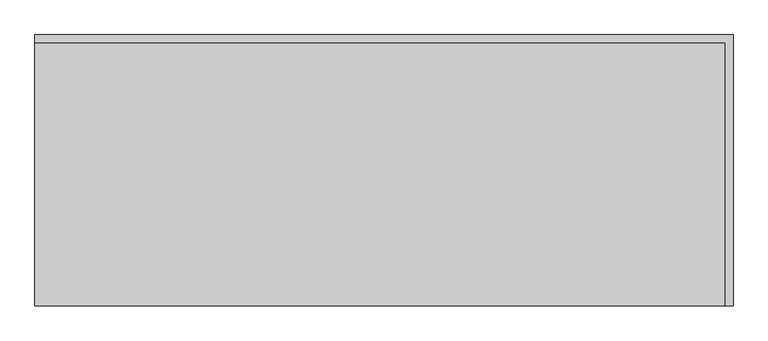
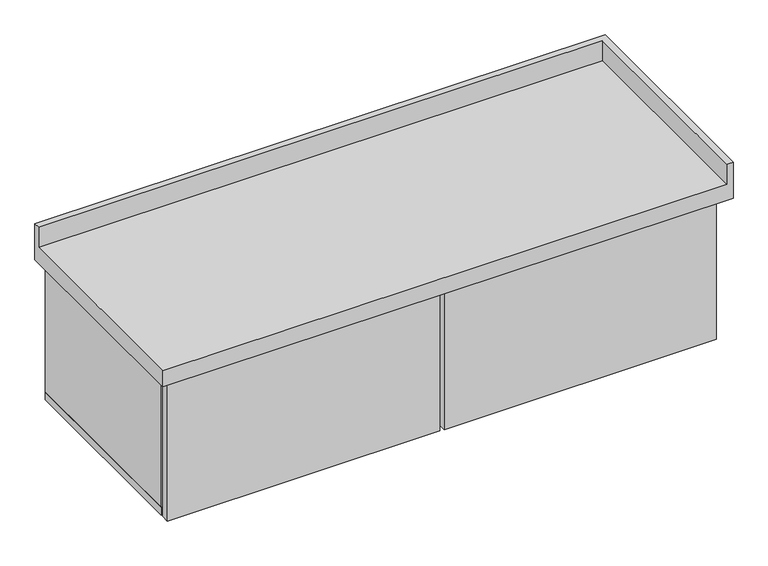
"""IFC4 building model written with IfcOpenShell, lengths in millimetres: furniture geometry, Mueble colgado 2 cajones al lado - lavabo sobreponer : MB8  mueble baño colgado-2 cajones al lado 151."""

import ifcopenshell
import ifcopenshell.guid

model = None  # the IFC model being written
_history = None  # IfcOwnerHistory: only IFC2X3 demands one
_inside = {}  # id of a spatial element -> (the spatial element, [elements in it])
_under = {}  # id of a project, library or spatial element -> (it, [spatial elements below it])
_declared = {}  # id of a project -> (the project, [libraries it declares])
_typed = {}  # id of a type object -> (the type object, [elements of that type])
_made_of = {}  # id of a material, layer set ... -> (it, [elements and type objects made of it])


def new_model(schema):
    """Start an empty IFC model of exactly this schema.

    Asked for "IFC4X3", IfcOpenShell would pick the latest addendum, in which some entities
    have other attributes; the version numbers below select the first issue.
    IFC2X3 requires an IfcOwnerHistory on every rooted entity: one is made here for all.
    """
    global model, _history
    if schema == "IFC4X3":
        model = ifcopenshell.file(schema_version=(4, 3, 0, 0))
    else:
        model = ifcopenshell.file(schema=schema)
    _inside.clear()
    _under.clear()
    _declared.clear()
    _typed.clear()
    _made_of.clear()
    _history = None
    if model.schema == "IFC2X3":
        org = make("IfcOrganization", Name="unknown")
        user = make(
            "IfcPersonAndOrganization",
            ThePerson=make("IfcPerson", FamilyName="unknown"),
            TheOrganization=org,
        )
        app = make(
            "IfcApplication",
            ApplicationDeveloper=org,
            Version="unknown",
            ApplicationFullName="unknown",
            ApplicationIdentifier="unknown",
        )
        _history = make(
            "IfcOwnerHistory",
            OwningUser=user,
            OwningApplication=app,
            ChangeAction="ADDED",
            CreationDate=0,
        )
    return model


def make(cls, **values):
    """One entity of the class cls with the attributes given. An attribute that is None is left unset."""
    return model.create_entity(
        cls, **{name: value for name, value in values.items() if value is not None}
    )


def rooted(cls, **values):
    """An entity with a GlobalId (a new one), such as an element, a storey or a relation."""
    return make(cls, GlobalId=ifcopenshell.guid.new(), OwnerHistory=_history, **values)


def si_unit(unit_type, name, prefix=None):
    """IfcSIUnit, for example si_unit("LENGTHUNIT", "METRE", prefix="MILLI")."""
    return make("IfcSIUnit", UnitType=unit_type, Prefix=prefix, Name=name)


def assignment(units):
    """IfcUnitAssignment: the units of a project."""
    return None if units is None else make("IfcUnitAssignment", Units=units)


def point(xyz):
    """IfcCartesianPoint."""
    return None if xyz is None else make("IfcCartesianPoint", Coordinates=xyz)


def direction(xyz):
    """IfcDirection."""
    return None if xyz is None else make("IfcDirection", DirectionRatios=xyz)


def frame(location, z_axis=None, x_axis=None):
    """IfcAxis2Placement3D, a coordinate frame: its origin and axes. An axis left out is left unset."""
    return make(
        "IfcAxis2Placement3D",
        Location=point(location),
        Axis=direction(z_axis),
        RefDirection=direction(x_axis),
    )


def origin():
    """The frame at (0, 0, 0) with its axes left unset."""
    return frame((0.0, 0.0, 0.0))


def place(relative_to, where):
    """IfcLocalPlacement: puts the frame where relative to a parent placement (None: the world)."""
    return make(
        "IfcLocalPlacement", PlacementRelTo=relative_to, RelativePlacement=where
    )


def context(
    kind, dimensions, precision=None, world=None, true_north=None, identifier=None
):
    """IfcGeometricRepresentationContext, for example the 3D "Model" context."""
    return make(
        "IfcGeometricRepresentationContext",
        ContextIdentifier=identifier,
        ContextType=kind,
        CoordinateSpaceDimension=dimensions,
        Precision=precision,
        WorldCoordinateSystem=world,
        TrueNorth=true_north,
    )


def project(units=None, contexts=None):
    """IfcProject with its units and contexts."""
    return rooted(
        "IfcProject",
        Name="project",
        RepresentationContexts=contexts,
        UnitsInContext=assignment(units),
    )


def spatial(cls, under=None, at=None, **own):
    """A site, building, storey or space (cls), placed at a placement, below another one or the project."""
    s = rooted(cls, ObjectPlacement=at, **own)
    if under is not None:
        _under.setdefault(under.id(), (under, []))[1].append(s)
    return s


def polyline(points):
    """IfcPolyline through the points."""
    return make("IfcPolyline", Points=[point(p) for p in points])


def outline(outer, holes=None, kind="AREA"):
    """IfcArbitraryClosedProfileDef: a profile drawn as a closed curve; with holes, ...WithVoids."""
    if holes is None:
        return make("IfcArbitraryClosedProfileDef", ProfileType=kind, OuterCurve=outer)
    return make(
        "IfcArbitraryProfileDefWithVoids",
        ProfileType=kind,
        OuterCurve=outer,
        InnerCurves=holes,
    )


def extrude(swept, where, along, depth):
    """IfcExtrudedAreaSolid: the profile swept, set in the frame where, extruded along a direction by depth."""
    return make(
        "IfcExtrudedAreaSolid",
        SweptArea=swept,
        Position=where,
        ExtrudedDirection=direction(along),
        Depth=depth,
    )


def faces_of(points, faces, orient=None, outer=None):
    """IfcFace entities. A face is a list of loops; a loop is a list of indices into points, from 0.

    orient and outer hold one flag for each loop. By default every Orientation is true, the
    first loop of a face is its IfcFaceOuterBound and the others are IfcFaceBound.
    """
    made = []
    for i, loops in enumerate(faces):
        bounds = []
        for j, loop in enumerate(loops):
            is_outer = j == 0 if outer is None else outer[i][j]
            bounds.append(
                make(
                    "IfcFaceOuterBound" if is_outer else "IfcFaceBound",
                    Bound=make("IfcPolyLoop", Polygon=[points[k] for k in loop]),
                    Orientation=True if orient is None else orient[i][j],
                )
            )
        made.append(make("IfcFace", Bounds=bounds))
    return made


def faceted_brep(points, faces, orient=None, outer=None, voids=None):
    """IfcFacetedBrep: a solid bounded by flat faces; with voids (closed shells), ...WithVoids."""
    shared = [point(p) for p in points]
    hull = make("IfcClosedShell", CfsFaces=faces_of(shared, faces, orient, outer))
    if voids is None:
        return make("IfcFacetedBrep", Outer=hull)
    return make(
        "IfcFacetedBrepWithVoids",
        Outer=hull,
        Voids=[
            make(cls, CfsFaces=faces_of(shared, fs, o, b)) for cls, fs, o, b in voids
        ],
    )


def shape(context_of_items, identifier, shape_type, items):
    """IfcShapeRepresentation: the items that make up one representation, for example the "Body"."""
    return make(
        "IfcShapeRepresentation",
        ContextOfItems=context_of_items,
        RepresentationIdentifier=identifier,
        RepresentationType=shape_type,
        Items=items,
    )


def source(mapping_origin, context_of_items, identifier, shape_type, items):
    """IfcRepresentationMap: a shape defined once, which mapped items show again and again."""
    return make(
        "IfcRepresentationMap",
        MappingOrigin=mapping_origin,
        MappedRepresentation=shape(context_of_items, identifier, shape_type, items),
    )


def transform(
    local_origin,
    x_axis=None,
    y_axis=None,
    z_axis=None,
    scale=None,
    scale2=None,
    scale3=None,
    uniform=True,
):
    """IfcCartesianTransformationOperator3D, or its non-uniform kind. x_axis, y_axis, z_axis: its Axis1, 2, 3."""
    if uniform:
        return make(
            "IfcCartesianTransformationOperator3D",
            Axis1=direction(x_axis),
            Axis2=direction(y_axis),
            LocalOrigin=point(local_origin),
            Scale=scale,
            Axis3=direction(z_axis),
        )
    return make(
        "IfcCartesianTransformationOperator3DnonUniform",
        Axis1=direction(x_axis),
        Axis2=direction(y_axis),
        LocalOrigin=point(local_origin),
        Scale=scale,
        Axis3=direction(z_axis),
        Scale2=scale2,
        Scale3=scale3,
    )


def mapped(mapping_source, mapping_target):
    """IfcMappedItem: shows the shape of a source again, moved by a transform."""
    return make(
        "IfcMappedItem", MappingSource=mapping_source, MappingTarget=mapping_target
    )


def made_of(thing, what):
    """Note that an element or type object is made of a material, layer set ...; save() writes the relation."""
    if what is not None:
        _made_of.setdefault(what.id(), (what, []))[1].append(thing)
    return thing


def element(
    cls,
    number,
    at=None,
    inside=None,
    cuts=None,
    type_object=None,
    material=None,
    context=None,
    identifier="Body",
    shape_type=None,
    held_by="IfcProductDefinitionShape",
    body=None,
    shapes=None,
    **own,
):
    """One element of the class cls, such as IfcWall. Its Tag is "e" and its number.

    at: its placement. inside: the storey or other place that contains it. cuts: it is an
    opening in that element (IfcRelVoidsElement). A single representation is given by context,
    identifier, shape_type and body (its items); several are given by shapes. held_by: the class
    of the entity that holds the representations. save() writes the other relations.
    """
    e = rooted(cls, Tag="e%d" % number, ObjectPlacement=at, **own)
    if body is not None:
        shapes = [shape(context, identifier, shape_type, body)]
    if shapes is not None:
        e.Representation = make(held_by, Representations=shapes)
    if inside is not None:
        _inside.setdefault(inside.id(), (inside, []))[1].append(e)
    if cuts is not None:
        rooted(
            "IfcRelVoidsElement", RelatingBuildingElement=cuts, RelatedOpeningElement=e
        )
    if type_object is not None:
        _typed.setdefault(type_object.id(), (type_object, []))[1].append(e)
    return made_of(e, material)


def aggregate(whole, parts):
    """IfcRelAggregates: a whole, such as a stair, and the parts it consists of."""
    return rooted("IfcRelAggregates", RelatingObject=whole, RelatedObjects=parts)


def save(model, path):
    """Write the relations noted so far, then the file.

    IfcRelAggregates (storeys below a building ...), IfcRelContainedInSpatialStructure (elements
    in a storey), IfcRelDefinesByType, IfcRelAssociatesMaterial and IfcRelDeclares: one each for
    every whole, place, type object, material and project.
    """
    for whole, parts in _under.values():
        aggregate(whole, parts)
    for where, things in _inside.values():
        rooted(
            "IfcRelContainedInSpatialStructure",
            RelatedElements=things,
            RelatingStructure=where,
        )
    for kind, things in _typed.values():
        rooted("IfcRelDefinesByType", RelatedObjects=things, RelatingType=kind)
    for what, things in _made_of.values():
        rooted("IfcRelAssociatesMaterial", RelatedObjects=things, RelatingMaterial=what)
    for by, libraries in _declared.values():
        rooted("IfcRelDeclares", RelatingContext=by, RelatedDefinitions=libraries)
    model.write(path)


def furniture_424edb56(model_context):
    return source(origin(), model_context, "Body", "SolidModel", [
        extrude(outline(polyline([(-525.0, -570.0), (120.0, -570.0), (120.0, -590.0), (-525.0, -590.0), (-525.0, -570.0)])), frame((0.0, 0.0, 350.0), z_axis=(0.0, 0.0, 1.0), x_axis=(1.0, 0.0, 0.0)), (0.0, 0.0, 1.0), 350.0),
        faceted_brep([(785.0, -105.0, 800.0), (-550.0, -105.0, 800.0), (-550.0, -105.0, 750.0), (785.0, -105.0, 750.0), (785.0, -615.0, 800.0), (800.0, -615.0, 800.0), (800.0, -90.0, 800.0), (-550.0, -90.0, 800.0), (-550.0, -90.0, 710.0), (-550.0, -615.0, 710.0), (-550.0, -615.0, 750.0), (800.0, -90.0, 710.0), (785.0, -615.0, 750.0), (800.0, -615.0, 710.0)], [[[0, 1, 2, 3]], [[0, 4, 5, 6, 7, 1]], [[1, 7, 8, 9, 10, 2]], [[6, 11, 8, 7]], [[3, 12, 4, 0]], [[13, 11, 6, 5]], [[10, 12, 3, 2]], [[13, 9, 8, 11]], [[4, 12, 10, 9, 13, 5]]]),
        extrude(outline(polyline([(775.0, -590.0), (130.0, -590.0), (130.0, -570.0), (775.0, -570.0), (775.0, -590.0)])), frame((0.0, 0.0, 350.0), z_axis=(0.0, 0.0, 1.0), x_axis=(1.0, 0.0, 0.0)), (0.0, 0.0, 1.0), 350.0),
        extrude(outline(polyline([(775.0, -90.0), (775.0, -565.0), (755.0, -565.0), (755.0, -90.0), (775.0, -90.0)])), frame((0.0, 0.0, 370.0), z_axis=(0.0, 0.0, 1.0), x_axis=(1.0, 0.0, 0.0)), (0.0, 0.0, 1.0), 340.0),
        extrude(outline(polyline([(-505.0, -90.0), (-505.0, -565.0), (-525.0, -565.0), (-525.0, -90.0), (-505.0, -90.0)])), frame((0.0, 0.0, 370.0), z_axis=(0.0, 0.0, 1.0), x_axis=(1.0, 0.0, 0.0)), (0.0, 0.0, 1.0), 340.0),
        extrude(outline(polyline([(775.0, -565.0), (-525.0, -565.0), (-525.0, -90.0), (775.0, -90.0), (775.0, -565.0)])), frame((0.0, 0.0, 350.0), z_axis=(0.0, 0.0, 1.0), x_axis=(1.0, 0.0, 0.0)), (0.0, 0.0, 1.0), 20.0),
    ])


if __name__ == "__main__":
    model = new_model("IFC4")
    model_context = context("Model", 3, world=origin())
    ifc_project = project(units=[si_unit("LENGTHUNIT", "METRE", prefix="MILLI")], contexts=[model_context])
    site = spatial("IfcSite", under=ifc_project)
    building = spatial("IfcBuilding", under=site)
    placement = place(None, origin())
    furniture_shape = furniture_424edb56(model_context)
    element("IfcFurniture", 1, ObjectType="Mueble colgado 2 cajones al lado - lavabo sobreponer : MB8  mueble baño colgado-2 cajones al lado 151", at=placement, inside=building, context=model_context, shape_type="MappedRepresentation", body=[
        mapped(furniture_shape, transform((0.0, 0.0, 0.0), x_axis=(1.0, 0.0, 0.0), y_axis=(0.0, 1.0, 0.0), z_axis=(0.0, 0.0, 1.0))),
    ])
    save(model, "model.ifc")
